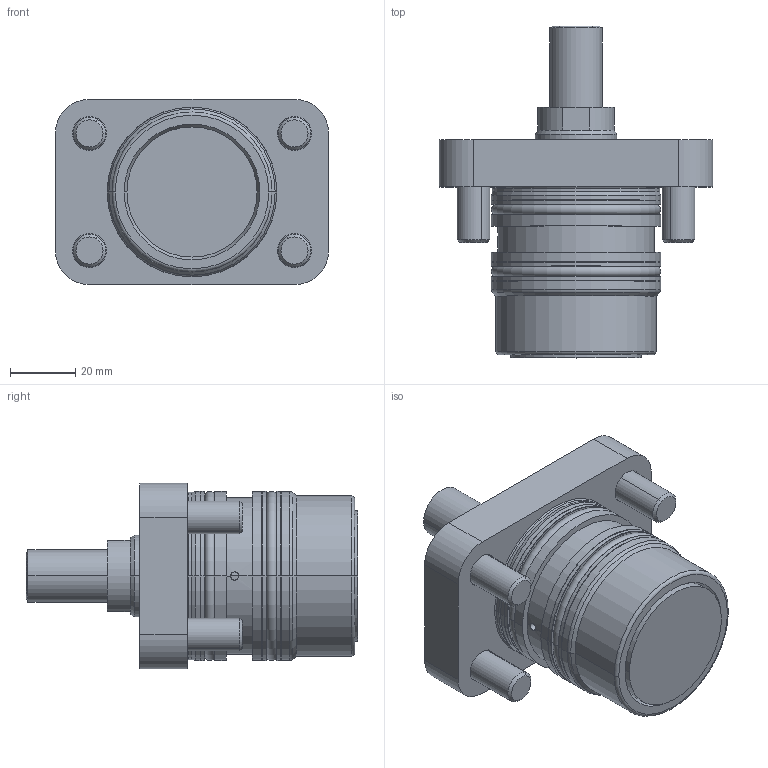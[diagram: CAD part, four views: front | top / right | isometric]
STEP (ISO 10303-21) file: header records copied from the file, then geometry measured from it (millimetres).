
FILE_DESCRIPTION (( 'STEP AP203' ), '1' );
FILE_NAME ('GERMA_Einbauzylinder_210-040-025-A.STEP', '2023-09-07T05:29:35', ( '' ), ( '' ), 'SwSTEP 2.0', 'SolidWorks 2016', '' );
FILE_SCHEMA (( 'CONFIG_CONTROL_DESIGN' ));
Length unit declared in the file: millimetre
Products named in the file (4): DIN7984-M10x25; GERMA_Einbauzylinder_210-040-025-A; Gehaeuse 210-040_Gehaeuse 210-040-025; Kolben 60x-040_Kolben DU.40-Hub25-AG
Assembly tree (6 placements, depth 2):
  GERMA_Einbauzylinder_210-040-025-A
    Gehaeuse 210-040_Gehaeuse 210-040-025
    Kolben 60x-040_Kolben DU.40-Hub25-AG
    DIN7984-M10x25  x4
Bounding box: 84 x 102 x 57 mm (x, y, z)
Volume: 164757.6 mm3; surface area: 47583.5 mm2
Topology: 6 solids, 6 shells, 370 faces, 883 edges, 553 vertices
Faces by surface type: plane 163, bspline 84, cylinder 73, cone 28, torus 22
Entity records: 12846 total; most frequent: CARTESIAN_POINT 5857, ORIENTED_EDGE 1414, DIRECTION 1198, EDGE_CURVE 707, VERTEX_POINT 454, AXIS2_PLACEMENT_3D 413, VECTOR 372, LINE 372
